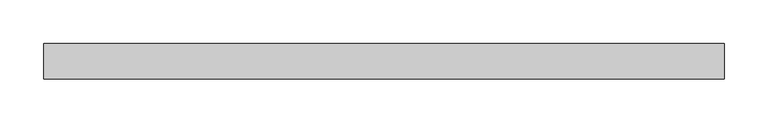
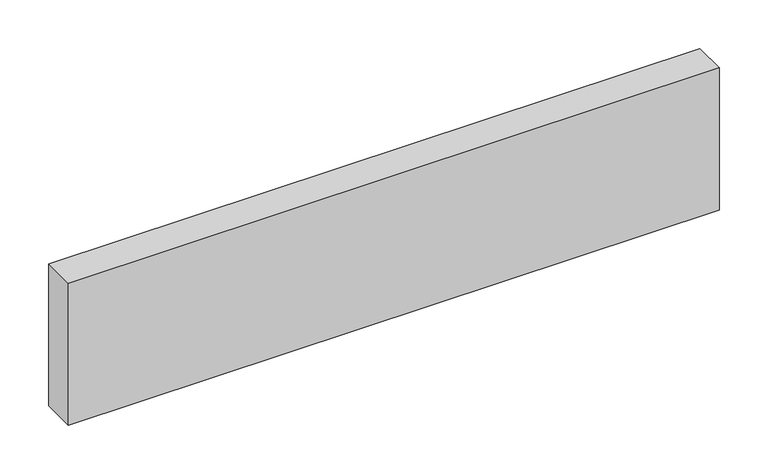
"""IFC4 building model written with IfcOpenShell, lengths in millimetres: plate geometry, Panneau système vide : Epaiss. 4cm."""

from ifc_helpers import new_model, si_unit, origin, origin_with_axes, place, context, project, spatial, polyline, outline, extrude, source, transform, mapped, element, save


def plate_c2505b35(model_context):
    return source(origin(), model_context, "Body", "SweptSolid", [
        extrude(outline(polyline([(386.6244143, -20.0), (-386.6244143, -20.0), (-386.6244143, 20.0), (386.6244143, 20.0), (386.6244143, -20.0)])), origin_with_axes(), (0.0, 0.0, 1.0), 178.3333333),
    ])


if __name__ == "__main__":
    model = new_model("IFC4")
    model_context = context("Model", 3, world=origin())
    ifc_project = project(units=[si_unit("LENGTHUNIT", "METRE", prefix="MILLI")], contexts=[model_context])
    site = spatial("IfcSite", under=ifc_project)
    building = spatial("IfcBuilding", under=site)
    placement = place(None, origin())
    plate_shape = plate_c2505b35(model_context)
    element("IfcPlate", 1, ObjectType="Panneau système vide : Epaiss. 4cm", at=placement, inside=building, context=model_context, shape_type="MappedRepresentation", body=[
        mapped(plate_shape, transform((0.0, 0.0, 0.0), x_axis=(1.0, 0.0, 0.0), y_axis=(0.0, 1.0, 0.0), z_axis=(0.0, 0.0, 1.0))),
    ])
    save(model, "model.ifc")
